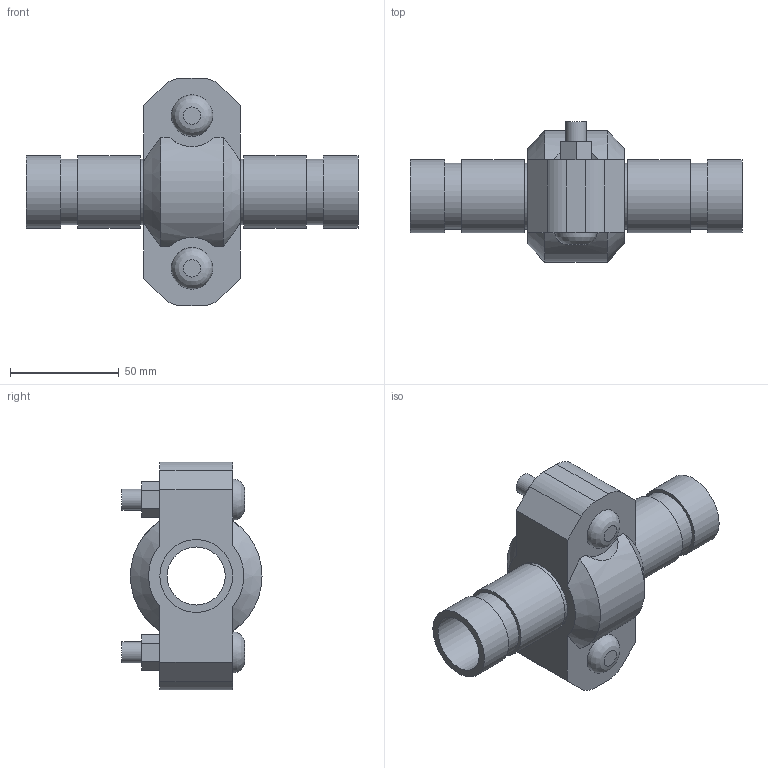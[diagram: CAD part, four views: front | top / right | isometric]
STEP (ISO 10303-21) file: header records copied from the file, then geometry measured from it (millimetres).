
FILE_DESCRIPTION(/* description */ ('VIC EXPANSION JOINT 1 COUPLING COMPRESSED STYLE 155 (OGS)','CAx-IF Rec.Pracs.---Representation and Presentation of Product Manufacturing Information (PMI)---4.0---2014-10-13'),/* implementation_level */ '2;1');
FILE_NAME(/* name */ 'C:\Users\kkamble\AppData\Roaming\Autodesk\ApplicationPlugins\Victaulic.Temp\A74\Victaulic_IPS_Expansion Joint_Compressed_1 Coupling_Style 155 (OGS)_1 (25).stp',/* time_stamp */ '2021-06-27T00:13:59+02:00',/* author */ ('kkamble'),/* organization */ ('Victaulic'),/* preprocessor_version */ 'ST-DEVELOPER v17.2',/* originating_system */ 'Autodesk Inventor 2019',/* authorisation */ '');
FILE_SCHEMA (('AP242_MANAGED_MODEL_BASED_3D_ENGINEERING_MIM_LF { 1 0 10303 442 1 1 4 }'));
Length unit declared in the file: inch
Products named in the file (3): 155-01.0; Nipple-01.0; 077-01.0
Assembly tree (3 placements, depth 2):
  155-01.0
    Nipple-01.0  x2
    077-01.0
Bounding box: 152.4 x 64.33 x 104.65 mm (x, y, z)
Volume: 188744.1 mm3; surface area: 59593.2 mm2
Topology: 3 solids, 5 shells, 81 faces, 199 edges, 142 vertices
Faces by surface type: plane 46, cylinder 29, cone 4, bspline 2
Full cylindrical faces by diameter (mm): 9.525 x4, 11.43 x2, 26.645 x2, 30.226 x4, 33.401 x7
Entity records: 2391 total; most frequent: CARTESIAN_POINT 482, DIRECTION 371, ORIENTED_EDGE 338, EDGE_CURVE 169, AXIS2_PLACEMENT_3D 141, VERTEX_POINT 118, LINE 89, VECTOR 89
